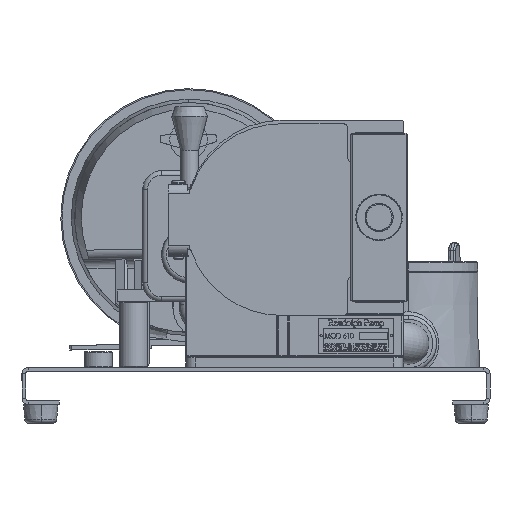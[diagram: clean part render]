
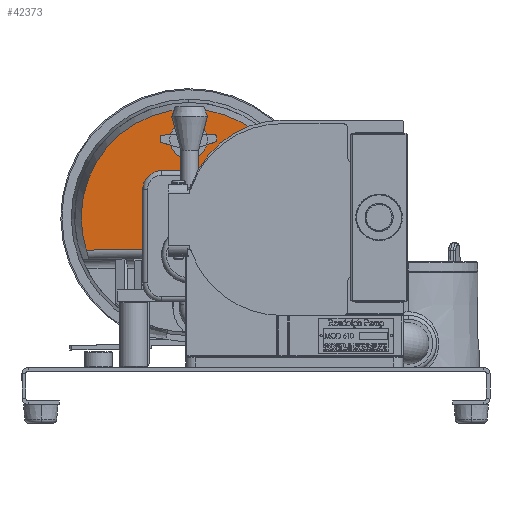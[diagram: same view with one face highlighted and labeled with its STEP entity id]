
A CAD part, front view. The second image highlights one B-rep face of the part: STEP entity #42373.
In plain terms, the highlighted planar face has unit normal (0, -1, 0).
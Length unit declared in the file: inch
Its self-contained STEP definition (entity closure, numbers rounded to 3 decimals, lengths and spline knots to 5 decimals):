
#641 = CIRCLE ( 'NONE', #30235, 2.89367 ) ;
#649 = CIRCLE ( 'NONE', #30237, 1.375 ) ;
#650 = CIRCLE ( 'NONE', #30238, 0.5 ) ;
#672 = LINE ( 'NONE', #46892, #675 ) ;
#675 = VECTOR ( 'NONE', #46893, 39.37008 ) ;
#679 = CIRCLE ( 'NONE', #30245, 0.50172 ) ;
#1024 = CIRCLE ( 'NONE', #30344, 0.50172 ) ;
#1072 = LINE ( 'NONE', #27666, #1085 ) ;
#1085 = VECTOR ( 'NONE', #27667, 39.37008 ) ;
#1086 = CIRCLE ( 'NONE', #30358, 1.375 ) ;
#2768 = FACE_OUTER_BOUND ( 'NONE', #18501, .T. ) ;
#2773 = FACE_BOUND ( 'NONE', #18492, .T. ) ;
#4979 = CARTESIAN_POINT ( 'NONE',  ( -1.79664, 6.4425, 4.76158 ) ) ;
#4980 = CARTESIAN_POINT ( 'NONE',  ( -1.78372, 6.4425, 3.75821 ) ) ;
#5015 = CARTESIAN_POINT ( 'NONE',  ( -1.4834, 6.4425, 1.7759 ) ) ;
#13616 = ORIENTED_EDGE ( 'NONE', *, *, #39294, .F. ) ;
#18492 = EDGE_LOOP ( 'NONE', ( #49747, #13616 ) ) ;
#18501 = EDGE_LOOP ( 'NONE', ( #50081, #50083, #50082, #50084, #50085, #49748 ) ) ;
#25153 = CARTESIAN_POINT ( 'NONE',  ( -2.26349, 6.4425, 2.18363 ) ) ;
#25160 = PLANE ( 'NONE',  #30500 ) ;
#25164 = DIRECTION ( 'NONE',  ( 0., 1., 0. ) ) ;
#25166 = DIRECTION ( 'NONE',  ( 0.013, 0., -1. ) ) ;
#27421 = CARTESIAN_POINT ( 'NONE',  ( -1.79018, 6.4425, 4.25989 ) ) ;
#27422 = DIRECTION ( 'NONE',  ( 0., -1., 0. ) ) ;
#27423 = DIRECTION ( 'NONE',  ( 0.013, 0., -1. ) ) ;
#27666 = CARTESIAN_POINT ( 'NONE',  ( -2.25271, 6.4425, 1.34695 ) ) ;
#27667 = DIRECTION ( 'NONE',  ( 1., 0., 0.013 ) ) ;
#27698 = CARTESIAN_POINT ( 'NONE',  ( -1.7408, 6.4425, 0.42521 ) ) ;
#27699 = DIRECTION ( 'NONE',  ( 0., 1., 0. ) ) ;
#27700 = DIRECTION ( 'NONE',  ( 0.013, 0., -1. ) ) ;
#28969 = CARTESIAN_POINT ( 'NONE',  ( -2.76705, 6.4425, 1.34033 ) ) ;
#28974 = CARTESIAN_POINT ( 'NONE',  ( 1.01707, 6.4425, 1.38905 ) ) ;
#28975 = CARTESIAN_POINT ( 'NONE',  ( -4.52258, 6.4425, 1.31772 ) ) ;
#28977 = CARTESIAN_POINT ( 'NONE',  ( -2.0329, 6.4425, 1.76883 ) ) ;
#28978 = CARTESIAN_POINT ( 'NONE',  ( -0.73845, 6.4425, 1.36645 ) ) ;
#30235 = AXIS2_PLACEMENT_3D ( 'NONE', #46697, #46699, #46700 ) ;
#30237 = AXIS2_PLACEMENT_3D ( 'NONE', #46721, #46723, #46724 ) ;
#30238 = AXIS2_PLACEMENT_3D ( 'NONE', #46727, #46728, #46730 ) ;
#30245 = AXIS2_PLACEMENT_3D ( 'NONE', #46931, #46932, #46933 ) ;
#30344 = AXIS2_PLACEMENT_3D ( 'NONE', #27421, #27422, #27423 ) ;
#30358 = AXIS2_PLACEMENT_3D ( 'NONE', #27698, #27699, #27700 ) ;
#30500 = AXIS2_PLACEMENT_3D ( 'NONE', #25153, #25164, #25166 ) ;
#38707 = EDGE_CURVE ( 'NONE', #52160, #52161, #641, .T. ) ;
#38720 = EDGE_CURVE ( 'NONE', #52163, #52164, #649, .T. ) ;
#38722 = EDGE_CURVE ( 'NONE', #57479, #52164, #650, .T. ) ;
#38765 = EDGE_CURVE ( 'NONE', #52161, #52163, #672, .T. ) ;
#38776 = EDGE_CURVE ( 'NONE', #57380, #57378, #679, .T. ) ;
#39294 = EDGE_CURVE ( 'NONE', #57378, #57380, #1024, .T. ) ;
#39339 = EDGE_CURVE ( 'NONE', #52166, #52160, #1072, .T. ) ;
#39341 = EDGE_CURVE ( 'NONE', #57479, #52166, #1086, .T. ) ;
#42373 = ADVANCED_FACE ( 'NONE', ( #2768, #2773 ), #25160, .F. ) ;
#46697 = CARTESIAN_POINT ( 'NONE',  ( -1.76353, 6.4425, 2.19007 ) ) ;
#46699 = DIRECTION ( 'NONE',  ( 0., -1., 0. ) ) ;
#46700 = DIRECTION ( 'NONE',  ( -0.013, 0., 1. ) ) ;
#46721 = CARTESIAN_POINT ( 'NONE',  ( -1.7408, 6.4425, 0.42521 ) ) ;
#46723 = DIRECTION ( 'NONE',  ( 0., 1., 0. ) ) ;
#46724 = DIRECTION ( 'NONE',  ( 0.013, 0., -1. ) ) ;
#46727 = CARTESIAN_POINT ( 'NONE',  ( -1.76353, 6.4425, 2.19007 ) ) ;
#46728 = DIRECTION ( 'NONE',  ( 0., -1., 0. ) ) ;
#46730 = DIRECTION ( 'NONE',  ( -0.013, 0., 1. ) ) ;
#46892 = CARTESIAN_POINT ( 'NONE',  ( -2.25271, 6.4425, 1.34695 ) ) ;
#46893 = DIRECTION ( 'NONE',  ( 1., 0., 0.013 ) ) ;
#46931 = CARTESIAN_POINT ( 'NONE',  ( -1.79018, 6.4425, 4.25989 ) ) ;
#46932 = DIRECTION ( 'NONE',  ( 0., -1., 0. ) ) ;
#46933 = DIRECTION ( 'NONE',  ( 0.013, 0., -1. ) ) ;
#49747 = ORIENTED_EDGE ( 'NONE', *, *, #38776, .F. ) ;
#49748 = ORIENTED_EDGE ( 'NONE', *, *, #39339, .T. ) ;
#50081 = ORIENTED_EDGE ( 'NONE', *, *, #38707, .T. ) ;
#50082 = ORIENTED_EDGE ( 'NONE', *, *, #38720, .T. ) ;
#50083 = ORIENTED_EDGE ( 'NONE', *, *, #38765, .T. ) ;
#50084 = ORIENTED_EDGE ( 'NONE', *, *, #38722, .F. ) ;
#50085 = ORIENTED_EDGE ( 'NONE', *, *, #39341, .T. ) ;
#52160 = VERTEX_POINT ( 'NONE', #28974 ) ;
#52161 = VERTEX_POINT ( 'NONE', #28975 ) ;
#52163 = VERTEX_POINT ( 'NONE', #28969 ) ;
#52164 = VERTEX_POINT ( 'NONE', #28977 ) ;
#52166 = VERTEX_POINT ( 'NONE', #28978 ) ;
#57378 = VERTEX_POINT ( 'NONE', #4979 ) ;
#57380 = VERTEX_POINT ( 'NONE', #4980 ) ;
#57479 = VERTEX_POINT ( 'NONE', #5015 ) ;
